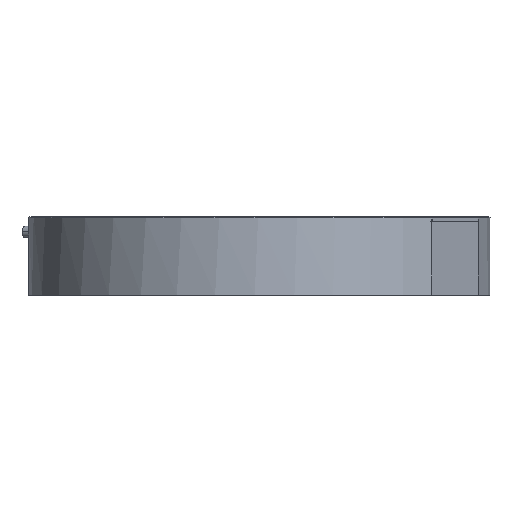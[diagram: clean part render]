
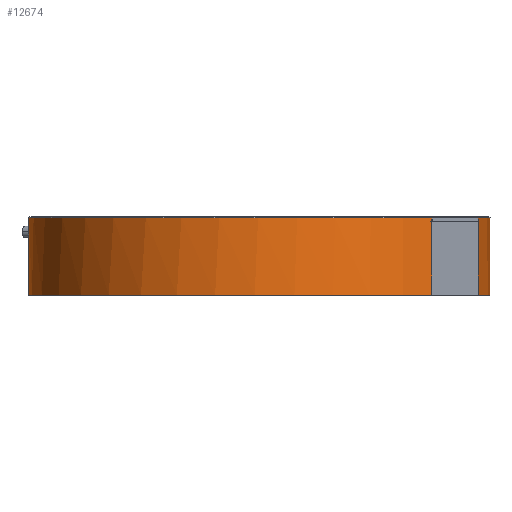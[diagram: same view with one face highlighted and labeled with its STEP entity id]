
A CAD part, left-side view. The second image highlights one B-rep face of the part: STEP entity #12674.
In plain terms, the highlighted cylindrical face has radius 100 mm (diameter 200 mm), a partial arc.
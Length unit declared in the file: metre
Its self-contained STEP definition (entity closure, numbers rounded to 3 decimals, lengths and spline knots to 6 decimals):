
#3739=DIRECTION('',(0.,0.,-1.));
#3740=VECTOR('',#3739,0.006002);
#3741=CARTESIAN_POINT('',(0.054268,0.083994,
0.001502));
#3742=LINE('',#3741,#3740);
#3743=CARTESIAN_POINT('',(0.054268,0.083994,-0.0045));
#3744=CARTESIAN_POINT('',(0.054268,0.083994,
-0.004739));
#3745=CARTESIAN_POINT('',(0.054239,0.084013,
-0.005212));
#3746=CARTESIAN_POINT('',(0.054111,0.084095,
-0.005914));
#3747=CARTESIAN_POINT('',(0.053901,0.08423,
-0.006582));
#3748=CARTESIAN_POINT('',(0.05361,0.084416,
-0.007213));
#3749=CARTESIAN_POINT('',(0.053249,0.084644,
-0.007784));
#3750=CARTESIAN_POINT('',(0.052817,0.084914,
-0.008293));
#3751=CARTESIAN_POINT('',(0.052332,0.085214,
-0.00872));
#3752=CARTESIAN_POINT('',(0.051793,0.085543,
-0.009064));
#3753=CARTESIAN_POINT('',(0.05122,0.085888,
-0.009314));
#3754=CARTESIAN_POINT('',(0.050617,0.086244,
-0.009466));
#3755=CARTESIAN_POINT('',(0.050001,0.086603,
-0.009517));
#3756=CARTESIAN_POINT('',(0.049381,0.086958,
-0.009466));
#3757=CARTESIAN_POINT('',(0.048771,0.087302,
-0.009313));
#3758=CARTESIAN_POINT('',(0.048186,0.087626,
-0.009064));
#3759=CARTESIAN_POINT('',(0.047632,0.087928,
-0.00872));
#3760=CARTESIAN_POINT('',(0.047129,0.088198,
-0.008292));
#3761=CARTESIAN_POINT('',(0.046679,0.088437,
-0.007784));
#3762=CARTESIAN_POINT('',(0.046301,0.088636,
-0.007213));
#3763=CARTESIAN_POINT('',(0.045995,0.088795,
-0.006582));
#3764=CARTESIAN_POINT('',(0.045773,0.088909,
-0.005913));
#3765=CARTESIAN_POINT('',(0.045637,0.088979,
-0.005212));
#3766=CARTESIAN_POINT('',(0.045607,0.088994,
-0.004739));
#3767=CARTESIAN_POINT('',(0.045607,0.088994,-0.0045));
#3769=DIRECTION('',(0.,0.,-1.));
#3770=VECTOR('',#3769,0.006);
#3771=CARTESIAN_POINT('',(0.045607,0.088994,
0.0015));
#3772=LINE('',#3771,#3770);
#3773=CARTESIAN_POINT('',(0.,0.,0.001499));
#3774=DIRECTION('',(0.,0.,1.));
#3775=DIRECTION('',(0.456,0.89,0.));
#3776=AXIS2_PLACEMENT_3D('',#3773,#3774,#3775);
#3778=DIRECTION('',(0.,0.,1.));
#3779=VECTOR('',#3778,0.0015);
#3780=CARTESIAN_POINT('',(-0.066463,-0.074717,0.));
#3781=LINE('',#3780,#3779);
#3782=DIRECTION('',(0.,0.,-1.));
#3783=VECTOR('',#3782,0.032);
#3784=CARTESIAN_POINT('',(-0.066463,-0.074717,0.));
#3785=LINE('',#3784,#3783);
#3786=CARTESIAN_POINT('',(0.,0.,-0.032));
#3787=DIRECTION('',(0.,0.,-1.));
#3788=DIRECTION('',(-0.665,-0.747,0.));
#3789=AXIS2_PLACEMENT_3D('',#3786,#3787,#3788);
#3791=DIRECTION('',(0.,0.,1.));
#3792=VECTOR('',#3791,0.032);
#3793=CARTESIAN_POINT('',(-0.031476,-0.094917,-0.032));
#3794=LINE('',#3793,#3792);
#3795=DIRECTION('',(0.,0.,-1.));
#3796=VECTOR('',#3795,0.001499);
#3797=CARTESIAN_POINT('',(-0.031475,-0.094917,
0.001499));
#3798=LINE('',#3797,#3796);
#3799=CARTESIAN_POINT('',(0.,0.,0.001499));
#3800=DIRECTION('',(0.,0.,1.));
#3801=DIRECTION('',(-0.315,-0.949,0.));
#3802=AXIS2_PLACEMENT_3D('',#3799,#3800,#3801);
#5953=CARTESIAN_POINT('',(-0.031476,-0.094917,0.));
#5954=VERTEX_POINT('',#5953);
#5956=CARTESIAN_POINT('',(-0.066463,-0.074717,0.));
#5958=VERTEX_POINT('',#5956);
#5973=CARTESIAN_POINT('',(-0.066463,-0.074718,
0.0015));
#5974=VERTEX_POINT('',#5973);
#5975=CARTESIAN_POINT('',(-0.031475,-0.094917,
0.001499));
#5976=VERTEX_POINT('',#5975);
#6204=CARTESIAN_POINT('',(-0.031476,-0.094917,-0.032));
#6205=CARTESIAN_POINT('',(-0.066463,-0.074717,-0.032));
#6206=VERTEX_POINT('',#6204);
#6207=VERTEX_POINT('',#6205);
#7362=CARTESIAN_POINT('',(0.054268,0.083994,
0.001502));
#7363=CARTESIAN_POINT('',(0.054268,0.083994,-0.0045));
#7364=VERTEX_POINT('',#7362);
#7365=VERTEX_POINT('',#7363);
#7366=VERTEX_POINT('',#3767);
#7367=CARTESIAN_POINT('',(0.045607,0.088994,
0.0015));
#7368=VERTEX_POINT('',#7367);
#12651=CARTESIAN_POINT('',(0.,0.,0.0015));
#12652=DIRECTION('',(0.,0.,-1.));
#12653=DIRECTION('',(0.,-1.,0.));
#12654=AXIS2_PLACEMENT_3D('',#12651,#12652,#12653);
#12655=CYLINDRICAL_SURFACE('',#12654,0.1);
#12656=ORIENTED_EDGE('',*,*,#11409,.T.);
#12657=ORIENTED_EDGE('',*,*,#12642,.T.);
#12658=ORIENTED_EDGE('',*,*,#11318,.F.);
#12660=ORIENTED_EDGE('',*,*,#12659,.T.);
#12662=ORIENTED_EDGE('',*,*,#12661,.F.);
#12664=ORIENTED_EDGE('',*,*,#12663,.T.);
#12665=ORIENTED_EDGE('',*,*,#7922,.T.);
#12667=ORIENTED_EDGE('',*,*,#12666,.T.);
#12669=ORIENTED_EDGE('',*,*,#12668,.F.);
#12671=ORIENTED_EDGE('',*,*,#12670,.T.);
#12672=EDGE_LOOP('',(#12656,#12657,#12658,#12660,#12662,#12664,#12665,#12667,
#12669,#12671));
#12673=FACE_OUTER_BOUND('',#12672,.F.);
#12674=ADVANCED_FACE('',(#12673),#12655,.T.);
#3768=B_SPLINE_CURVE_WITH_KNOTS('',3,(#3743,#3744,#3745,#3746,#3747,#3748,#3749,
#3750,#3751,#3752,#3753,#3754,#3755,#3756,#3757,#3758,#3759,#3760,#3761,#3762,
#3763,#3764,#3765,#3766,#3767),.UNSPECIFIED.,.F.,.F.,(4,1,1,1,1,1,1,1,1,1,1,1,1,
1,1,1,1,1,1,1,1,1,4),(0.,0.045455,0.090909,
0.136364,0.181818,0.227273,0.272727,
0.318182,0.363636,0.409091,0.454545,0.5,
0.545455,0.590909,0.636364,0.681818,
0.727273,0.772727,0.818182,0.863636,
0.909091,0.954545,1.),.UNSPECIFIED.);
#3777=CIRCLE('',#3776,0.1);
#3790=CIRCLE('',#3789,0.1);
#3803=CIRCLE('',#3802,0.1);
#7922=EDGE_CURVE('',#6207,#6206,#3790,.T.);
#11318=EDGE_CURVE('',#7368,#7366,#3772,.T.);
#11409=EDGE_CURVE('',#7364,#7365,#3742,.T.);
#12642=EDGE_CURVE('',#7365,#7366,#3768,.T.);
#12659=EDGE_CURVE('',#7368,#5974,#3777,.T.);
#12661=EDGE_CURVE('',#5958,#5974,#3781,.T.);
#12663=EDGE_CURVE('',#5958,#6207,#3785,.T.);
#12666=EDGE_CURVE('',#6206,#5954,#3794,.T.);
#12668=EDGE_CURVE('',#5976,#5954,#3798,.T.);
#12670=EDGE_CURVE('',#5976,#7364,#3803,.T.);
